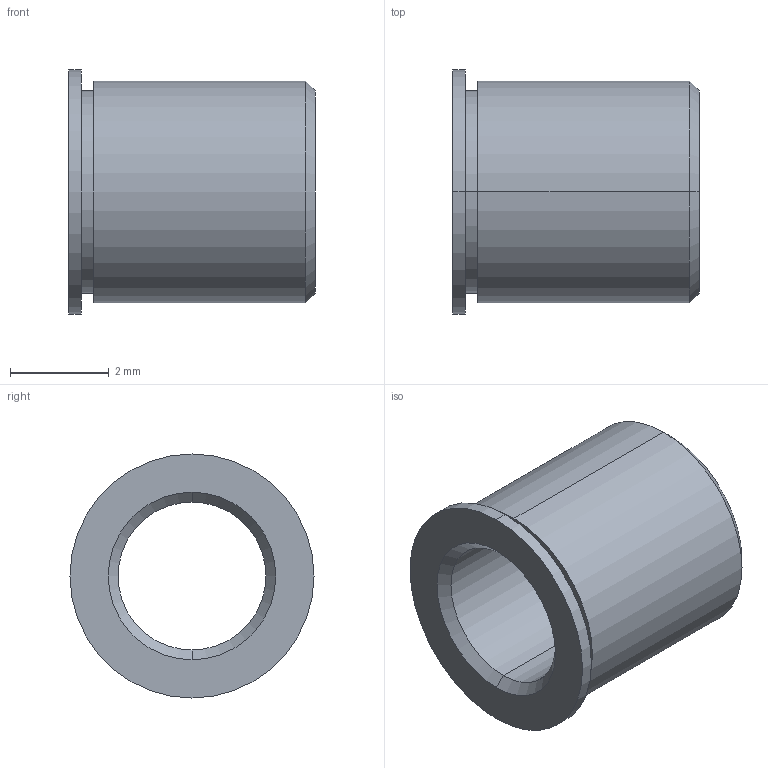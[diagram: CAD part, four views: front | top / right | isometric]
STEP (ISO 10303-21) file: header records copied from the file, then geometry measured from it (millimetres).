
FILE_DESCRIPTION (( 'STEP AP214' ), '1' );
FILE_NAME ('TB3-25-05.STEP', '2013-03-12T13:07:04', ( 'workpc' ), ( 'Microsoft' ), 'SwSTEP 2.0', 'SolidWorks 2013', '' );
FILE_SCHEMA (( 'AUTOMOTIVE_DESIGN' ));
Length unit declared in the file: millimetre
Products named in the file (1): TB3-25-05
Bounding box: 5 x 4.95 x 4.95 mm (x, y, z)
Volume: 43.7 mm3; surface area: 143.8 mm2
Topology: 1 solids, 1 shells, 18 faces, 36 edges, 22 vertices
Faces by surface type: cylinder 8, cone 6, plane 4
Entity records: 534 total; most frequent: DIRECTION 96, CARTESIAN_POINT 77, ORIENTED_EDGE 72, AXIS2_PLACEMENT_3D 41, EDGE_CURVE 36, CIRCLE 22, EDGE_LOOP 22, VERTEX_POINT 22
